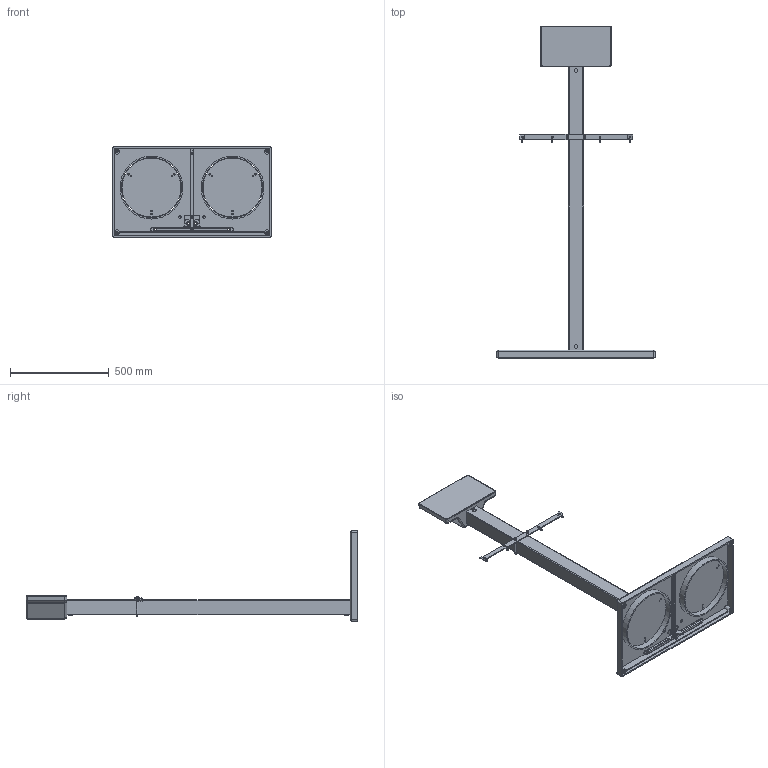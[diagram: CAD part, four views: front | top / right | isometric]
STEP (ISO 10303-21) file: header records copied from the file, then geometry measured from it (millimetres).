
FILE_DESCRIPTION (( 'STEP AP214' ), '1' );
FILE_NAME ('2330.STEP', '2022-01-07T17:50:57', ( '' ), ( '' ), 'SwSTEP 2.0', 'SolidWorks 2019', '' );
FILE_SCHEMA (( 'AUTOMOTIVE_DESIGN' ));
Length unit declared in the file: inch
Products named in the file (1): 2330
Bounding box: 800.1 x 1680.59 x 457.2 mm (x, y, z)
Surface area: 2117437.5 mm2 (no closed solid volume)
Topology: 0 solids, 27 shells, 294 faces, 838 edges, 555 vertices
Faces by surface type: plane 132, cylinder 119, torus 16, sphere 12, bspline 8, cone 7
Full cylindrical faces by diameter (mm): 3.175 x12, 6.756 x12, 7.937 x1, 7.938 x2, 8.731 x4, 9.525 x2, 9.922 x3, 10.084 x3, 11.125 x4, 11.908 x12, 12.7 x2, 19.05 x2, 298.45 x2, 304.8 x2, 318.008 x2
Entity records: 14130 total; most frequent: CARTESIAN_POINT 3020, DIRECTION 1511, ORIENTED_EDGE 1214, EDGE_CURVE 749, AXIS2_PLACEMENT_3D 570, VERTEX_POINT 553, EDGE_LOOP 480, VECTOR 371
